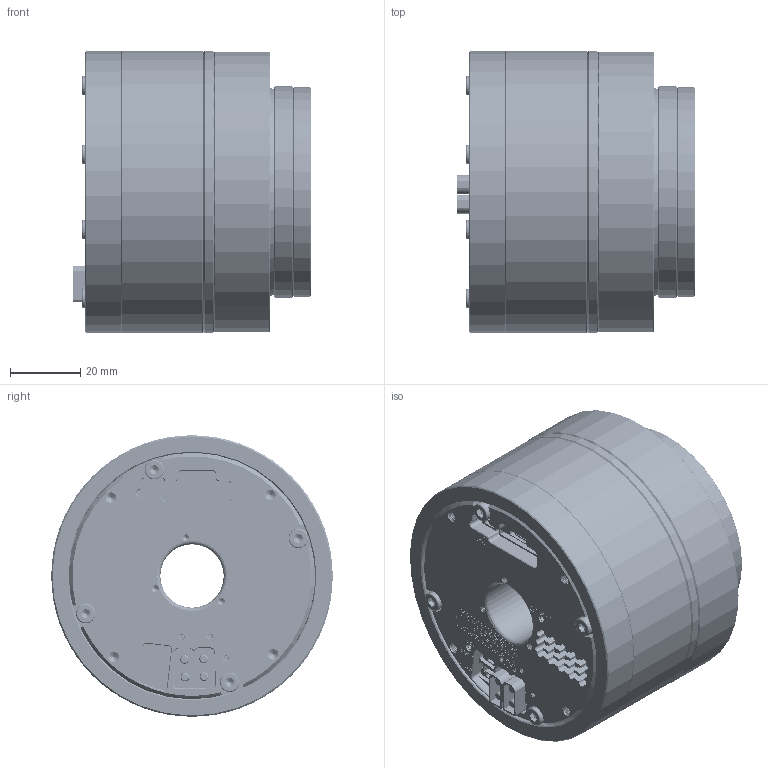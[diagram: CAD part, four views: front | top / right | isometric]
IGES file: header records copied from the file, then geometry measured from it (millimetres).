
Start section: SolidWorks IGES file using analytic representation for surfaces
Global section: file name: 33HG:\李鸿彬\00 官网需更新模型\00官网需更新模型 源文件\官网更新3D\I型\eRob80 I型\eRob80 I型（V6）\eRob80H××I-XX-18CX_V6_MC2E.DX.XX.IGS; native system: SolidWorks 2021; preprocessor: SolidWorks 2021; author: ZERO; date: 241112.203151; units: millimetre
Bounding box: 67.5 x 80 x 80 mm (x, y, z)
Surface area: 42008.2 mm2 (no closed solid volume)
Topology: 0 solids, 5 shells, 4600 faces, 12504 edges, 8154 vertices
Faces by surface type: plane 2181, revolution 1983, bspline 436
